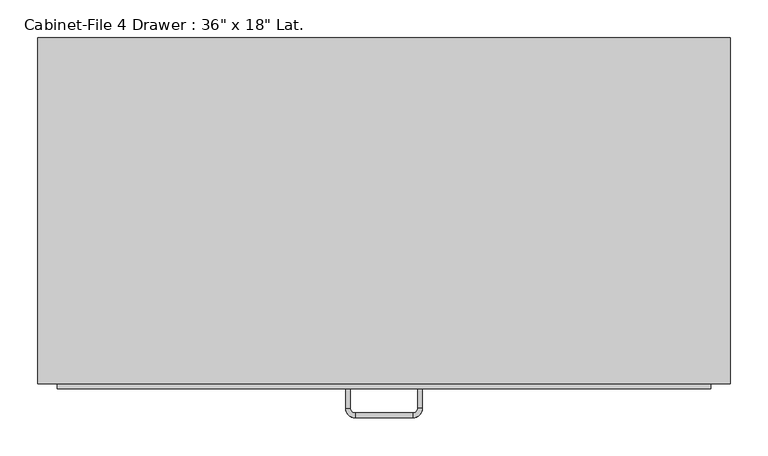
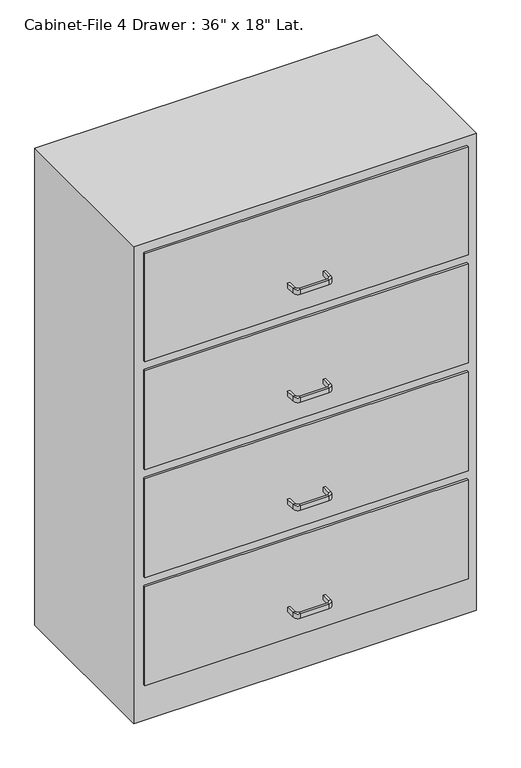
"""IFC4 building model written with IfcOpenShell, lengths in millimetres: furniture geometry."""

from ifc_helpers import new_model, si_unit, frame, origin, origin_with_axes, place, context, project, spatial, polyline, circle_curve, outline, extrude, source, transform, mapped, element, save
from ifc_brep_helpers import plane_surface, cylinder_surface, revolved_surface, advanced_brep


def furniture_7033c86c(model_context):
    return source(origin(), model_context, "Body", "SolidModel", [
        extrude(outline(polyline([(329.303553, 86.4656999), (329.303553, -370.7343001), (-585.096447, -370.7343001), (-585.096447, 86.4656999), (329.303553, 86.4656999)])), origin_with_axes(), (0.0, 0.0, 1.0), 1346.2),
        extrude(outline(polyline([(303.903553, -377.0843001), (-559.696447, -377.0843001), (-559.696447, -370.7343001), (303.903553, -370.7343001), (303.903553, -377.0843001)])), frame((0.0, 0.0, 1016.0), z_axis=(0.0, 0.0, 1.0), x_axis=(1.0, 0.0, 0.0)), (0.0, 0.0, 1.0), 304.8),
        extrude(outline(polyline([(303.903553, -377.0843001), (-559.696447, -377.0843001), (-559.696447, -370.7343001), (303.903553, -370.7343001), (303.903553, -377.0843001)])), frame((0.0, 0.0, 711.2), z_axis=(0.0, 0.0, 1.0), x_axis=(1.0, 0.0, 0.0)), (0.0, 0.0, 1.0), 279.4),
        extrude(outline(polyline([(303.903553, -377.0843001), (-559.696447, -377.0843001), (-559.696447, -370.7343001), (303.903553, -370.7343001), (303.903553, -377.0843001)])), frame((0.0, 0.0, 406.4), z_axis=(0.0, 0.0, 1.0), x_axis=(1.0, 0.0, 0.0)), (0.0, 0.0, 1.0), 279.4),
        extrude(outline(polyline([(303.903553, -377.0843001), (-559.696447, -377.0843001), (-559.696447, -370.7343001), (303.903553, -370.7343001), (303.903553, -377.0843001)])), frame((0.0, 0.0, 101.6), z_axis=(0.0, 0.0, 1.0), x_axis=(1.0, 0.0, 0.0)), (0.0, 0.0, 1.0), 279.4),
        advanced_brep(
        [(-172.346447, -377.0843001, 177.8), (-178.696447, -377.0843001, 177.8), (-178.696447, -377.0843001, 190.5), (-172.346447, -377.0843001, 190.5), (-172.346447, -402.4843001, 177.8), (-178.696447, -402.4843001, 177.8), (-178.696447, -402.4843001, 190.5), (-172.346447, -402.4843001, 190.5), (-165.996447, -415.1843001, 177.8), (-165.996447, -408.8343001, 177.8), (-165.996447, -415.1843001, 190.5), (-165.996447, -408.8343001, 190.5), (-89.796447, -408.8343001, 177.8), (-89.796447, -415.1843001, 177.8), (-89.796447, -415.1843001, 190.5), (-89.796447, -408.8343001, 190.5), (-77.096447, -402.4843001, 177.8), (-83.446447, -402.4843001, 177.8), (-77.096447, -402.4843001, 190.5), (-83.446447, -402.4843001, 190.5), (-83.446447, -377.0843001, 177.8), (-83.446447, -377.0843001, 190.5), (-77.096447, -377.0843001, 190.5), (-77.096447, -377.0843001, 177.8)],
        [
            (0, 1),
            (1, 2),
            (2, 3),
            (3, 0),
            (0, 4),
            (4, 5),
            (5, 1),
            (5, 6),
            (6, 2),
            (6, 7),
            (7, 3),
            (7, 4),
            (8, 5, circle_curve(frame((-165.996447, -402.4843001, 177.8), z_axis=(0.0, 0.0, -1.0), x_axis=(-1.0, 0.0, 0.0)), 12.7)),
            (4, 9, circle_curve(frame((-165.996447, -402.4843001, 177.8), z_axis=(0.0, 0.0, 1.0), x_axis=(-1.0, 0.0, 0.0)), 6.35)),
            (9, 8),
            (10, 6, circle_curve(frame((-165.996447, -402.4843001, 190.5), z_axis=(0.0, 0.0, -1.0), x_axis=(-1.0, 0.0, 0.0)), 12.7)),
            (8, 10),
            (11, 7, circle_curve(frame((-165.996447, -402.4843001, 190.5), z_axis=(0.0, 0.0, -1.0), x_axis=(-1.0, 0.0, 0.0)), 6.35)),
            (10, 11),
            (11, 9),
            (9, 12),
            (12, 13),
            (13, 8),
            (13, 14),
            (14, 10),
            (14, 15),
            (15, 11),
            (15, 12),
            (16, 13, circle_curve(frame((-89.796447, -402.4843001, 177.8), z_axis=(0.0, 0.0, -1.0), x_axis=(0.0, -1.0, 0.0)), 12.7)),
            (12, 17, circle_curve(frame((-89.796447, -402.4843001, 177.8), z_axis=(0.0, 0.0, 1.0), x_axis=(0.0, -1.0, 0.0)), 6.35)),
            (17, 16),
            (18, 14, circle_curve(frame((-89.796447, -402.4843001, 190.5), z_axis=(0.0, 0.0, -1.0), x_axis=(0.0, -1.0, 0.0)), 12.7)),
            (16, 18),
            (19, 15, circle_curve(frame((-89.796447, -402.4843001, 190.5), z_axis=(0.0, 0.0, -1.0), x_axis=(0.0, -1.0, 0.0)), 6.35)),
            (18, 19),
            (19, 17),
            (20, 21),
            (21, 22),
            (22, 23),
            (23, 20),
            (17, 20),
            (23, 16),
            (22, 18),
            (21, 19),
        ],
        [
            plane_surface(frame((-1283.614694, -377.0843001, 0.0), z_axis=(0.0, 1.0, 0.0), x_axis=(0.0, 0.0, -1.0))),
            plane_surface(frame((-172.346447, -377.0843001, 177.8), z_axis=(0.0, 0.0, -1.0), x_axis=(0.0, -1.0, 0.0))),
            plane_surface(frame((-178.696447, -377.0843001, 177.8), z_axis=(-1.0, 0.0, 0.0), x_axis=(0.0, -1.0, 0.0))),
            plane_surface(frame((-178.696447, -377.0843001, 190.5), z_axis=(0.0, 0.0, 1.0), x_axis=(0.0, -1.0, 0.0))),
            plane_surface(frame((-172.346447, -377.0843001, 190.5), z_axis=(1.0, 0.0, 0.0), x_axis=(0.0, -1.0, 0.0))),
            plane_surface(frame((-165.996447, -402.4843001, 177.8), z_axis=(0.0, 0.0, -1.0), x_axis=(-1.0, 0.0, 0.0))),
            cylinder_surface(frame((-165.996447, -402.4843001, 0.0), z_axis=(0.0, 0.0, 1.0), x_axis=(-1.0, 0.0, 0.0)), 12.7),
            plane_surface(frame((-165.996447, -402.4843001, 190.5), z_axis=(0.0, 0.0, 1.0), x_axis=(-1.0, 0.0, 0.0))),
            revolved_surface(polyline([(-172.34644699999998, -402.4843001, 190.5), (-172.34644699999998, -402.4843001, 177.8)]), (-165.996447, -402.4843001, 0.0), (0.0, 0.0, 1.0)),
            plane_surface(frame((-165.996447, -408.8343001, 177.8), z_axis=(0.0, 0.0, -1.0), x_axis=(1.0, 0.0, 0.0))),
            plane_surface(frame((-165.996447, -415.1843001, 177.8), z_axis=(0.0, -1.0, 0.0), x_axis=(1.0, 0.0, 0.0))),
            plane_surface(frame((-165.996447, -415.1843001, 190.5), z_axis=(0.0, 0.0, 1.0), x_axis=(1.0, 0.0, 0.0))),
            plane_surface(frame((-165.996447, -408.8343001, 190.5), z_axis=(0.0, 1.0, 0.0), x_axis=(1.0, 0.0, 0.0))),
            plane_surface(frame((-89.796447, -402.4843001, 177.8), z_axis=(0.0, 0.0, -1.0), x_axis=(0.0, -1.0, 0.0))),
            cylinder_surface(frame((-89.796447, -402.4843001, 0.0), z_axis=(0.0, 0.0, 1.0), x_axis=(0.0, -1.0, 0.0)), 12.7),
            plane_surface(frame((-89.796447, -402.4843001, 190.5), z_axis=(0.0, 0.0, 1.0), x_axis=(0.0, -1.0, 0.0))),
            revolved_surface(polyline([(-89.796447, -408.8343001, 190.5), (-89.796447, -408.8343001, 177.8)]), (-89.796447, -402.4843001, 0.0), (0.0, 0.0, 1.0)),
            plane_surface(frame((-1182.014694, -377.0843001, 0.0), z_axis=(0.0, 1.0, 0.0), x_axis=(0.0, 0.0, 1.0))),
            plane_surface(frame((-83.446447, -402.4843001, 177.8), z_axis=(0.0, 0.0, -1.0), x_axis=(0.0, 1.0, 0.0))),
            plane_surface(frame((-77.096447, -402.4843001, 177.8), z_axis=(1.0, 0.0, 0.0), x_axis=(0.0, 1.0, 0.0))),
            plane_surface(frame((-77.096447, -402.4843001, 190.5), z_axis=(0.0, 0.0, 1.0), x_axis=(0.0, 1.0, 0.0))),
            plane_surface(frame((-83.446447, -402.4843001, 190.5), z_axis=(-1.0, 0.0, 0.0), x_axis=(0.0, 1.0, 0.0))),
        ],
        [
            (0, [[1, 2, 3, 4]]),
            (1, [[-1, 5, 6, 7]]),
            (2, [[-2, -7, 8, 9]]),
            (3, [[-3, -9, 10, 11]]),
            (4, [[-4, -11, 12, -5]]),
            (5, [[13, -6, 14, 15]]),
            (6, [[16, -8, -13, 17]]),
            (7, [[18, -10, -16, 19]]),
            (8, [[-14, -12, -18, 20]]),
            (9, [[-15, 21, 22, 23]]),
            (10, [[-17, -23, 24, 25]]),
            (11, [[-19, -25, 26, 27]]),
            (12, [[-20, -27, 28, -21]]),
            (13, [[29, -22, 30, 31]]),
            (14, [[32, -24, -29, 33]]),
            (15, [[34, -26, -32, 35]]),
            (16, [[-30, -28, -34, 36]]),
            (17, [[37, 38, 39, 40]]),
            (18, [[-31, 41, -40, 42]]),
            (19, [[-33, -42, -39, 43]]),
            (20, [[-35, -43, -38, 44]]),
            (21, [[-36, -44, -37, -41]]),
        ],
    ),
        advanced_brep(
        [(-172.346447, -377.0843001, 482.6), (-178.696447, -377.0843001, 482.6), (-178.696447, -377.0843001, 495.3), (-172.346447, -377.0843001, 495.3), (-172.346447, -402.4843001, 482.6), (-178.696447, -402.4843001, 482.6), (-178.696447, -402.4843001, 495.3), (-172.346447, -402.4843001, 495.3), (-165.996447, -415.1843001, 482.6), (-165.996447, -408.8343001, 482.6), (-165.996447, -415.1843001, 495.3), (-165.996447, -408.8343001, 495.3), (-89.796447, -408.8343001, 482.6), (-89.796447, -415.1843001, 482.6), (-89.796447, -415.1843001, 495.3), (-89.796447, -408.8343001, 495.3), (-77.096447, -402.4843001, 482.6), (-83.446447, -402.4843001, 482.6), (-77.096447, -402.4843001, 495.3), (-83.446447, -402.4843001, 495.3), (-83.446447, -377.0843001, 482.6), (-83.446447, -377.0843001, 495.3), (-77.096447, -377.0843001, 495.3), (-77.096447, -377.0843001, 482.6)],
        [
            (0, 1),
            (1, 2),
            (2, 3),
            (3, 0),
            (0, 4),
            (4, 5),
            (5, 1),
            (5, 6),
            (6, 2),
            (6, 7),
            (7, 3),
            (7, 4),
            (8, 5, circle_curve(frame((-165.996447, -402.4843001, 482.6), z_axis=(0.0, 0.0, -1.0), x_axis=(-1.0, 0.0, 0.0)), 12.7)),
            (4, 9, circle_curve(frame((-165.996447, -402.4843001, 482.6), z_axis=(0.0, 0.0, 1.0), x_axis=(-1.0, 0.0, 0.0)), 6.35)),
            (9, 8),
            (10, 6, circle_curve(frame((-165.996447, -402.4843001, 495.3), z_axis=(0.0, 0.0, -1.0), x_axis=(-1.0, 0.0, 0.0)), 12.7)),
            (8, 10),
            (11, 7, circle_curve(frame((-165.996447, -402.4843001, 495.3), z_axis=(0.0, 0.0, -1.0), x_axis=(-1.0, 0.0, 0.0)), 6.35)),
            (10, 11),
            (11, 9),
            (9, 12),
            (12, 13),
            (13, 8),
            (13, 14),
            (14, 10),
            (14, 15),
            (15, 11),
            (15, 12),
            (16, 13, circle_curve(frame((-89.796447, -402.4843001, 482.6), z_axis=(0.0, 0.0, -1.0), x_axis=(0.0, -1.0, 0.0)), 12.7)),
            (12, 17, circle_curve(frame((-89.796447, -402.4843001, 482.6), z_axis=(0.0, 0.0, 1.0), x_axis=(0.0, -1.0, 0.0)), 6.35)),
            (17, 16),
            (18, 14, circle_curve(frame((-89.796447, -402.4843001, 495.3), z_axis=(0.0, 0.0, -1.0), x_axis=(0.0, -1.0, 0.0)), 12.7)),
            (16, 18),
            (19, 15, circle_curve(frame((-89.796447, -402.4843001, 495.3), z_axis=(0.0, 0.0, -1.0), x_axis=(0.0, -1.0, 0.0)), 6.35)),
            (18, 19),
            (19, 17),
            (20, 21),
            (21, 22),
            (22, 23),
            (23, 20),
            (17, 20),
            (23, 16),
            (22, 18),
            (21, 19),
        ],
        [
            plane_surface(frame((-1283.614694, -377.0843001, 0.0), z_axis=(0.0, 1.0, 0.0), x_axis=(0.0, 0.0, -1.0))),
            plane_surface(frame((-172.346447, -377.0843001, 482.6), z_axis=(0.0, 0.0, -1.0), x_axis=(0.0, -1.0, 0.0))),
            plane_surface(frame((-178.696447, -377.0843001, 482.6), z_axis=(-1.0, 0.0, 0.0), x_axis=(0.0, -1.0, 0.0))),
            plane_surface(frame((-178.696447, -377.0843001, 495.3), z_axis=(0.0, 0.0, 1.0), x_axis=(0.0, -1.0, 0.0))),
            plane_surface(frame((-172.346447, -377.0843001, 495.3), z_axis=(1.0, 0.0, 0.0), x_axis=(0.0, -1.0, 0.0))),
            plane_surface(frame((-165.996447, -402.4843001, 482.6), z_axis=(0.0, 0.0, -1.0), x_axis=(-1.0, 0.0, 0.0))),
            cylinder_surface(frame((-165.996447, -402.4843001, 0.0), z_axis=(0.0, 0.0, 1.0), x_axis=(-1.0, 0.0, 0.0)), 12.7),
            plane_surface(frame((-165.996447, -402.4843001, 495.3), z_axis=(0.0, 0.0, 1.0), x_axis=(-1.0, 0.0, 0.0))),
            revolved_surface(polyline([(-172.34644699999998, -402.4843001, 495.3), (-172.34644699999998, -402.4843001, 482.6)]), (-165.996447, -402.4843001, 0.0), (0.0, 0.0, 1.0)),
            plane_surface(frame((-165.996447, -408.8343001, 482.6), z_axis=(0.0, 0.0, -1.0), x_axis=(1.0, 0.0, 0.0))),
            plane_surface(frame((-165.996447, -415.1843001, 482.6), z_axis=(0.0, -1.0, 0.0), x_axis=(1.0, 0.0, 0.0))),
            plane_surface(frame((-165.996447, -415.1843001, 495.3), z_axis=(0.0, 0.0, 1.0), x_axis=(1.0, 0.0, 0.0))),
            plane_surface(frame((-165.996447, -408.8343001, 495.3), z_axis=(0.0, 1.0, 0.0), x_axis=(1.0, 0.0, 0.0))),
            plane_surface(frame((-89.796447, -402.4843001, 482.6), z_axis=(0.0, 0.0, -1.0), x_axis=(0.0, -1.0, 0.0))),
            cylinder_surface(frame((-89.796447, -402.4843001, 0.0), z_axis=(0.0, 0.0, 1.0), x_axis=(0.0, -1.0, 0.0)), 12.7),
            plane_surface(frame((-89.796447, -402.4843001, 495.3), z_axis=(0.0, 0.0, 1.0), x_axis=(0.0, -1.0, 0.0))),
            revolved_surface(polyline([(-89.796447, -408.8343001, 495.3), (-89.796447, -408.8343001, 482.6)]), (-89.796447, -402.4843001, 0.0), (0.0, 0.0, 1.0)),
            plane_surface(frame((-1182.014694, -377.0843001, 0.0), z_axis=(0.0, 1.0, 0.0), x_axis=(0.0, 0.0, 1.0))),
            plane_surface(frame((-83.446447, -402.4843001, 482.6), z_axis=(0.0, 0.0, -1.0), x_axis=(0.0, 1.0, 0.0))),
            plane_surface(frame((-77.096447, -402.4843001, 482.6), z_axis=(1.0, 0.0, 0.0), x_axis=(0.0, 1.0, 0.0))),
            plane_surface(frame((-77.096447, -402.4843001, 495.3), z_axis=(0.0, 0.0, 1.0), x_axis=(0.0, 1.0, 0.0))),
            plane_surface(frame((-83.446447, -402.4843001, 495.3), z_axis=(-1.0, 0.0, 0.0), x_axis=(0.0, 1.0, 0.0))),
        ],
        [
            (0, [[1, 2, 3, 4]]),
            (1, [[-1, 5, 6, 7]]),
            (2, [[-2, -7, 8, 9]]),
            (3, [[-3, -9, 10, 11]]),
            (4, [[-4, -11, 12, -5]]),
            (5, [[13, -6, 14, 15]]),
            (6, [[16, -8, -13, 17]]),
            (7, [[18, -10, -16, 19]]),
            (8, [[-14, -12, -18, 20]]),
            (9, [[-15, 21, 22, 23]]),
            (10, [[-17, -23, 24, 25]]),
            (11, [[-19, -25, 26, 27]]),
            (12, [[-20, -27, 28, -21]]),
            (13, [[29, -22, 30, 31]]),
            (14, [[32, -24, -29, 33]]),
            (15, [[34, -26, -32, 35]]),
            (16, [[-30, -28, -34, 36]]),
            (17, [[37, 38, 39, 40]]),
            (18, [[-31, 41, -40, 42]]),
            (19, [[-33, -42, -39, 43]]),
            (20, [[-35, -43, -38, 44]]),
            (21, [[-36, -44, -37, -41]]),
        ],
    ),
        advanced_brep(
        [(-172.346447, -377.0843001, 787.4), (-178.696447, -377.0843001, 787.4), (-178.696447, -377.0843001, 800.1), (-172.346447, -377.0843001, 800.1), (-172.346447, -402.4843001, 787.4), (-178.696447, -402.4843001, 787.4), (-178.696447, -402.4843001, 800.1), (-172.346447, -402.4843001, 800.1), (-165.996447, -415.1843001, 787.4), (-165.996447, -408.8343001, 787.4), (-165.996447, -415.1843001, 800.1), (-165.996447, -408.8343001, 800.1), (-89.796447, -408.8343001, 787.4), (-89.796447, -415.1843001, 787.4), (-89.796447, -415.1843001, 800.1), (-89.796447, -408.8343001, 800.1), (-77.096447, -402.4843001, 787.4), (-83.446447, -402.4843001, 787.4), (-77.096447, -402.4843001, 800.1), (-83.446447, -402.4843001, 800.1), (-83.446447, -377.0843001, 787.4), (-83.446447, -377.0843001, 800.1), (-77.096447, -377.0843001, 800.1), (-77.096447, -377.0843001, 787.4)],
        [
            (0, 1),
            (1, 2),
            (2, 3),
            (3, 0),
            (0, 4),
            (4, 5),
            (5, 1),
            (5, 6),
            (6, 2),
            (6, 7),
            (7, 3),
            (7, 4),
            (8, 5, circle_curve(frame((-165.996447, -402.4843001, 787.4), z_axis=(0.0, 0.0, -1.0), x_axis=(-1.0, 0.0, 0.0)), 12.7)),
            (4, 9, circle_curve(frame((-165.996447, -402.4843001, 787.4), z_axis=(0.0, 0.0, 1.0), x_axis=(-1.0, 0.0, 0.0)), 6.35)),
            (9, 8),
            (10, 6, circle_curve(frame((-165.996447, -402.4843001, 800.1), z_axis=(0.0, 0.0, -1.0), x_axis=(-1.0, 0.0, 0.0)), 12.7)),
            (8, 10),
            (11, 7, circle_curve(frame((-165.996447, -402.4843001, 800.1), z_axis=(0.0, 0.0, -1.0), x_axis=(-1.0, 0.0, 0.0)), 6.35)),
            (10, 11),
            (11, 9),
            (9, 12),
            (12, 13),
            (13, 8),
            (13, 14),
            (14, 10),
            (14, 15),
            (15, 11),
            (15, 12),
            (16, 13, circle_curve(frame((-89.796447, -402.4843001, 787.4), z_axis=(0.0, 0.0, -1.0), x_axis=(0.0, -1.0, 0.0)), 12.7)),
            (12, 17, circle_curve(frame((-89.796447, -402.4843001, 787.4), z_axis=(0.0, 0.0, 1.0), x_axis=(0.0, -1.0, 0.0)), 6.35)),
            (17, 16),
            (18, 14, circle_curve(frame((-89.796447, -402.4843001, 800.1), z_axis=(0.0, 0.0, -1.0), x_axis=(0.0, -1.0, 0.0)), 12.7)),
            (16, 18),
            (19, 15, circle_curve(frame((-89.796447, -402.4843001, 800.1), z_axis=(0.0, 0.0, -1.0), x_axis=(0.0, -1.0, 0.0)), 6.35)),
            (18, 19),
            (19, 17),
            (20, 21),
            (21, 22),
            (22, 23),
            (23, 20),
            (17, 20),
            (23, 16),
            (22, 18),
            (21, 19),
        ],
        [
            plane_surface(frame((-1283.614694, -377.0843001, 0.0), z_axis=(0.0, 1.0, 0.0), x_axis=(0.0, 0.0, -1.0))),
            plane_surface(frame((-172.346447, -377.0843001, 787.4), z_axis=(0.0, 0.0, -1.0), x_axis=(0.0, -1.0, 0.0))),
            plane_surface(frame((-178.696447, -377.0843001, 787.4), z_axis=(-1.0, 0.0, 0.0), x_axis=(0.0, -1.0, 0.0))),
            plane_surface(frame((-178.696447, -377.0843001, 800.1), z_axis=(0.0, 0.0, 1.0), x_axis=(0.0, -1.0, 0.0))),
            plane_surface(frame((-172.346447, -377.0843001, 800.1), z_axis=(1.0, 0.0, 0.0), x_axis=(0.0, -1.0, 0.0))),
            plane_surface(frame((-165.996447, -402.4843001, 787.4), z_axis=(0.0, 0.0, -1.0), x_axis=(-1.0, 0.0, 0.0))),
            cylinder_surface(frame((-165.996447, -402.4843001, 0.0), z_axis=(0.0, 0.0, 1.0), x_axis=(-1.0, 0.0, 0.0)), 12.7),
            plane_surface(frame((-165.996447, -402.4843001, 800.1), z_axis=(0.0, 0.0, 1.0), x_axis=(-1.0, 0.0, 0.0))),
            revolved_surface(polyline([(-172.34644699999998, -402.4843001, 800.1), (-172.34644699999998, -402.4843001, 787.4)]), (-165.996447, -402.4843001, 0.0), (0.0, 0.0, 1.0)),
            plane_surface(frame((-165.996447, -408.8343001, 787.4), z_axis=(0.0, 0.0, -1.0), x_axis=(1.0, 0.0, 0.0))),
            plane_surface(frame((-165.996447, -415.1843001, 787.4), z_axis=(0.0, -1.0, 0.0), x_axis=(1.0, 0.0, 0.0))),
            plane_surface(frame((-165.996447, -415.1843001, 800.1), z_axis=(0.0, 0.0, 1.0), x_axis=(1.0, 0.0, 0.0))),
            plane_surface(frame((-165.996447, -408.8343001, 800.1), z_axis=(0.0, 1.0, 0.0), x_axis=(1.0, 0.0, 0.0))),
            plane_surface(frame((-89.796447, -402.4843001, 787.4), z_axis=(0.0, 0.0, -1.0), x_axis=(0.0, -1.0, 0.0))),
            cylinder_surface(frame((-89.796447, -402.4843001, 0.0), z_axis=(0.0, 0.0, 1.0), x_axis=(0.0, -1.0, 0.0)), 12.7),
            plane_surface(frame((-89.796447, -402.4843001, 800.1), z_axis=(0.0, 0.0, 1.0), x_axis=(0.0, -1.0, 0.0))),
            revolved_surface(polyline([(-89.796447, -408.8343001, 800.1), (-89.796447, -408.8343001, 787.4)]), (-89.796447, -402.4843001, 0.0), (0.0, 0.0, 1.0)),
            plane_surface(frame((-1182.014694, -377.0843001, 0.0), z_axis=(0.0, 1.0, 0.0), x_axis=(0.0, 0.0, 1.0))),
            plane_surface(frame((-83.446447, -402.4843001, 787.4), z_axis=(0.0, 0.0, -1.0), x_axis=(0.0, 1.0, 0.0))),
            plane_surface(frame((-77.096447, -402.4843001, 787.4), z_axis=(1.0, 0.0, 0.0), x_axis=(0.0, 1.0, 0.0))),
            plane_surface(frame((-77.096447, -402.4843001, 800.1), z_axis=(0.0, 0.0, 1.0), x_axis=(0.0, 1.0, 0.0))),
            plane_surface(frame((-83.446447, -402.4843001, 800.1), z_axis=(-1.0, 0.0, 0.0), x_axis=(0.0, 1.0, 0.0))),
        ],
        [
            (0, [[1, 2, 3, 4]]),
            (1, [[-1, 5, 6, 7]]),
            (2, [[-2, -7, 8, 9]]),
            (3, [[-3, -9, 10, 11]]),
            (4, [[-4, -11, 12, -5]]),
            (5, [[13, -6, 14, 15]]),
            (6, [[16, -8, -13, 17]]),
            (7, [[18, -10, -16, 19]]),
            (8, [[-14, -12, -18, 20]]),
            (9, [[-15, 21, 22, 23]]),
            (10, [[-17, -23, 24, 25]]),
            (11, [[-19, -25, 26, 27]]),
            (12, [[-20, -27, 28, -21]]),
            (13, [[29, -22, 30, 31]]),
            (14, [[32, -24, -29, 33]]),
            (15, [[34, -26, -32, 35]]),
            (16, [[-30, -28, -34, 36]]),
            (17, [[37, 38, 39, 40]]),
            (18, [[-31, 41, -40, 42]]),
            (19, [[-33, -42, -39, 43]]),
            (20, [[-35, -43, -38, 44]]),
            (21, [[-36, -44, -37, -41]]),
        ],
    ),
        advanced_brep(
        [(-172.346447, -377.0843001, 1092.2), (-178.696447, -377.0843001, 1092.2), (-178.696447, -377.0843001, 1104.9), (-172.346447, -377.0843001, 1104.9), (-172.346447, -402.4843001, 1092.2), (-178.696447, -402.4843001, 1092.2), (-178.696447, -402.4843001, 1104.9), (-172.346447, -402.4843001, 1104.9), (-165.996447, -415.1843001, 1092.2), (-165.996447, -408.8343001, 1092.2), (-165.996447, -415.1843001, 1104.9), (-165.996447, -408.8343001, 1104.9), (-89.796447, -408.8343001, 1092.2), (-89.796447, -415.1843001, 1092.2), (-89.796447, -415.1843001, 1104.9), (-89.796447, -408.8343001, 1104.9), (-77.096447, -402.4843001, 1092.2), (-83.446447, -402.4843001, 1092.2), (-77.096447, -402.4843001, 1104.9), (-83.446447, -402.4843001, 1104.9), (-83.446447, -377.0843001, 1092.2), (-83.446447, -377.0843001, 1104.9), (-77.096447, -377.0843001, 1104.9), (-77.096447, -377.0843001, 1092.2)],
        [
            (0, 1),
            (1, 2),
            (2, 3),
            (3, 0),
            (0, 4),
            (4, 5),
            (5, 1),
            (5, 6),
            (6, 2),
            (6, 7),
            (7, 3),
            (7, 4),
            (8, 5, circle_curve(frame((-165.996447, -402.4843001, 1092.2), z_axis=(0.0, 0.0, -1.0), x_axis=(-1.0, 0.0, 0.0)), 12.7)),
            (4, 9, circle_curve(frame((-165.996447, -402.4843001, 1092.2), z_axis=(0.0, 0.0, 1.0), x_axis=(-1.0, 0.0, 0.0)), 6.35)),
            (9, 8),
            (10, 6, circle_curve(frame((-165.996447, -402.4843001, 1104.9), z_axis=(0.0, 0.0, -1.0), x_axis=(-1.0, 0.0, 0.0)), 12.7)),
            (8, 10),
            (11, 7, circle_curve(frame((-165.996447, -402.4843001, 1104.9), z_axis=(0.0, 0.0, -1.0), x_axis=(-1.0, 0.0, 0.0)), 6.35)),
            (10, 11),
            (11, 9),
            (9, 12),
            (12, 13),
            (13, 8),
            (13, 14),
            (14, 10),
            (14, 15),
            (15, 11),
            (15, 12),
            (16, 13, circle_curve(frame((-89.796447, -402.4843001, 1092.2), z_axis=(0.0, 0.0, -1.0), x_axis=(0.0, -1.0, 0.0)), 12.7)),
            (12, 17, circle_curve(frame((-89.796447, -402.4843001, 1092.2), z_axis=(0.0, 0.0, 1.0), x_axis=(0.0, -1.0, 0.0)), 6.35)),
            (17, 16),
            (18, 14, circle_curve(frame((-89.796447, -402.4843001, 1104.9), z_axis=(0.0, 0.0, -1.0), x_axis=(0.0, -1.0, 0.0)), 12.7)),
            (16, 18),
            (19, 15, circle_curve(frame((-89.796447, -402.4843001, 1104.9), z_axis=(0.0, 0.0, -1.0), x_axis=(0.0, -1.0, 0.0)), 6.35)),
            (18, 19),
            (19, 17),
            (20, 21),
            (21, 22),
            (22, 23),
            (23, 20),
            (17, 20),
            (23, 16),
            (22, 18),
            (21, 19),
        ],
        [
            plane_surface(frame((-1283.614694, -377.0843001, 0.0), z_axis=(0.0, 1.0, 0.0), x_axis=(0.0, 0.0, -1.0))),
            plane_surface(frame((-172.346447, -377.0843001, 1092.2), z_axis=(0.0, 0.0, -1.0), x_axis=(0.0, -1.0, 0.0))),
            plane_surface(frame((-178.696447, -377.0843001, 1092.2), z_axis=(-1.0, 0.0, 0.0), x_axis=(0.0, -1.0, 0.0))),
            plane_surface(frame((-178.696447, -377.0843001, 1104.9), z_axis=(0.0, 0.0, 1.0), x_axis=(0.0, -1.0, 0.0))),
            plane_surface(frame((-172.346447, -377.0843001, 1104.9), z_axis=(1.0, 0.0, 0.0), x_axis=(0.0, -1.0, 0.0))),
            plane_surface(frame((-165.996447, -402.4843001, 1092.2), z_axis=(0.0, 0.0, -1.0), x_axis=(-1.0, 0.0, 0.0))),
            cylinder_surface(frame((-165.996447, -402.4843001, 0.0), z_axis=(0.0, 0.0, 1.0), x_axis=(-1.0, 0.0, 0.0)), 12.7),
            plane_surface(frame((-165.996447, -402.4843001, 1104.9), z_axis=(0.0, 0.0, 1.0), x_axis=(-1.0, 0.0, 0.0))),
            revolved_surface(polyline([(-172.34644699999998, -402.4843001, 1104.9), (-172.34644699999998, -402.4843001, 1092.2)]), (-165.996447, -402.4843001, 0.0), (0.0, 0.0, 1.0)),
            plane_surface(frame((-165.996447, -408.8343001, 1092.2), z_axis=(0.0, 0.0, -1.0), x_axis=(1.0, 0.0, 0.0))),
            plane_surface(frame((-165.996447, -415.1843001, 1092.2), z_axis=(0.0, -1.0, 0.0), x_axis=(1.0, 0.0, 0.0))),
            plane_surface(frame((-165.996447, -415.1843001, 1104.9), z_axis=(0.0, 0.0, 1.0), x_axis=(1.0, 0.0, 0.0))),
            plane_surface(frame((-165.996447, -408.8343001, 1104.9), z_axis=(0.0, 1.0, 0.0), x_axis=(1.0, 0.0, 0.0))),
            plane_surface(frame((-89.796447, -402.4843001, 1092.2), z_axis=(0.0, 0.0, -1.0), x_axis=(0.0, -1.0, 0.0))),
            cylinder_surface(frame((-89.796447, -402.4843001, 0.0), z_axis=(0.0, 0.0, 1.0), x_axis=(0.0, -1.0, 0.0)), 12.7),
            plane_surface(frame((-89.796447, -402.4843001, 1104.9), z_axis=(0.0, 0.0, 1.0), x_axis=(0.0, -1.0, 0.0))),
            revolved_surface(polyline([(-89.796447, -408.8343001, 1104.9), (-89.796447, -408.8343001, 1092.2)]), (-89.796447, -402.4843001, 0.0), (0.0, 0.0, 1.0)),
            plane_surface(frame((-1182.014694, -377.0843001, 0.0), z_axis=(0.0, 1.0, 0.0), x_axis=(0.0, 0.0, 1.0))),
            plane_surface(frame((-83.446447, -402.4843001, 1092.2), z_axis=(0.0, 0.0, -1.0), x_axis=(0.0, 1.0, 0.0))),
            plane_surface(frame((-77.096447, -402.4843001, 1092.2), z_axis=(1.0, 0.0, 0.0), x_axis=(0.0, 1.0, 0.0))),
            plane_surface(frame((-77.096447, -402.4843001, 1104.9), z_axis=(0.0, 0.0, 1.0), x_axis=(0.0, 1.0, 0.0))),
            plane_surface(frame((-83.446447, -402.4843001, 1104.9), z_axis=(-1.0, 0.0, 0.0), x_axis=(0.0, 1.0, 0.0))),
        ],
        [
            (0, [[1, 2, 3, 4]]),
            (1, [[-1, 5, 6, 7]]),
            (2, [[-2, -7, 8, 9]]),
            (3, [[-3, -9, 10, 11]]),
            (4, [[-4, -11, 12, -5]]),
            (5, [[13, -6, 14, 15]]),
            (6, [[16, -8, -13, 17]]),
            (7, [[18, -10, -16, 19]]),
            (8, [[-14, -12, -18, 20]]),
            (9, [[-15, 21, 22, 23]]),
            (10, [[-17, -23, 24, 25]]),
            (11, [[-19, -25, 26, 27]]),
            (12, [[-20, -27, 28, -21]]),
            (13, [[29, -22, 30, 31]]),
            (14, [[32, -24, -29, 33]]),
            (15, [[34, -26, -32, 35]]),
            (16, [[-30, -28, -34, 36]]),
            (17, [[37, 38, 39, 40]]),
            (18, [[-31, 41, -40, 42]]),
            (19, [[-33, -42, -39, 43]]),
            (20, [[-35, -43, -38, 44]]),
            (21, [[-36, -44, -37, -41]]),
        ],
    ),
    ])


if __name__ == "__main__":
    model = new_model("IFC4")
    model_context = context("Model", 3, world=origin())
    ifc_project = project(units=[si_unit("LENGTHUNIT", "METRE", prefix="MILLI")], contexts=[model_context])
    site = spatial("IfcSite", under=ifc_project)
    building = spatial("IfcBuilding", under=site)
    placement = place(None, origin())
    furniture_shape = furniture_7033c86c(model_context)
    element("IfcFurniture", 1, ObjectType="Cabinet-File 4 Drawer : 36\" x 18\" Lat.", at=placement, inside=building, context=model_context, shape_type="MappedRepresentation", body=[
        mapped(furniture_shape, transform((0.0, 0.0, 0.0), x_axis=(1.0, 0.0, 0.0), y_axis=(0.0, 1.0, 0.0), z_axis=(0.0, 0.0, 1.0))),
    ])
    save(model, "model.ifc")
